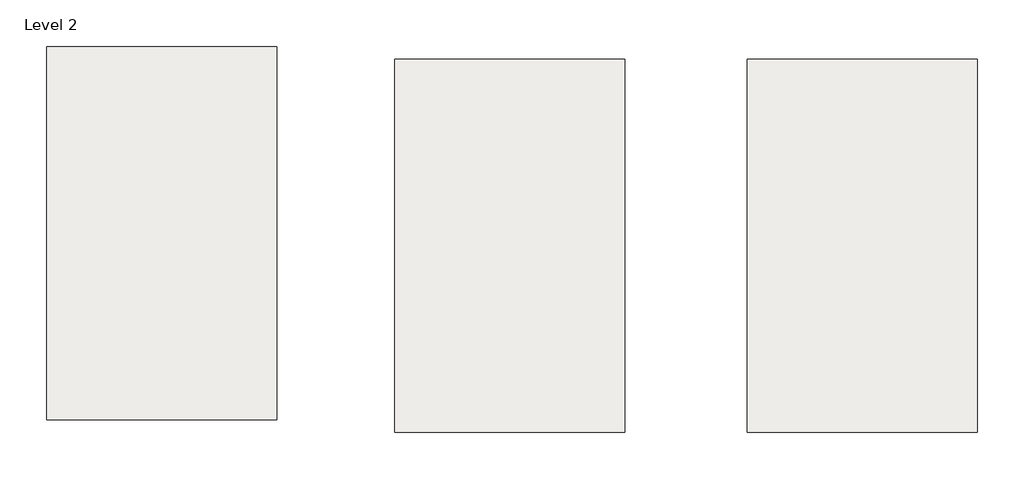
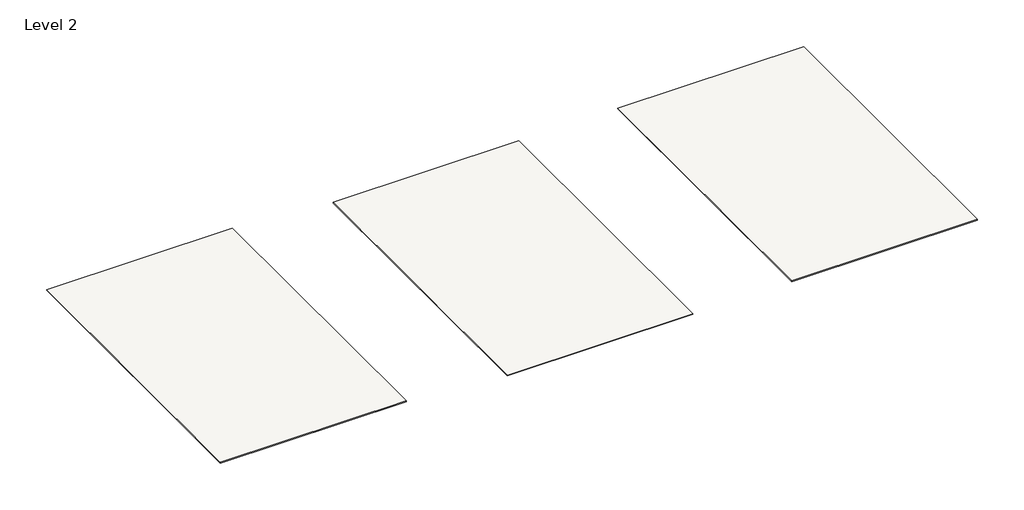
# One storey: 3 roofs.
"""IFC4 building model written with IfcOpenShell, lengths in millimetres."""

from ifc_helpers import new_model, si_unit, frame, origin, place, context, project, spatial, polyline, outline, extrude, element, save

model = new_model("IFC4")

# Units and contexts
model_context = context("Model", 3, world=origin())
ifc_project = project(units=[si_unit("LENGTHUNIT", "METRE", prefix="MILLI")], contexts=[model_context])

# Site, building, storey
site = spatial("IfcSite", under=ifc_project)
building = spatial("IfcBuilding", under=site)
storey = spatial("IfcBuildingStorey", under=building, Name="Level 2", Elevation=3048.0)

# Roofs
placement = place(None, origin())
element("IfcRoof", 1, ObjectType="Metal_Panel-MBCI-SSR-LokSeam_Series-18", at=placement, inside=storey, context=model_context, shape_type="SweptSolid", body=[
    extrude(outline(polyline([(-17285.3789569, -10483.6712849), (-17285.3789569, 4349.9287151), (-8141.3789569, 4349.9287151), (-8141.3789569, -10483.6712849), (-17285.3789569, -10483.6712849)])), frame((0.0, 0.0, 3035.3), z_axis=(0.0, 0.0, 1.0), x_axis=(1.0, 0.0, 0.0)), (0.0, 0.0, 1.0), 44.45),
])
element("IfcRoof", 2, ObjectType="Metal_Panel-MBCI-SSR-LokSeam_Series-16", at=placement, inside=storey, context=model_context, shape_type="SweptSolid", body=[
    extrude(outline(polyline([(-3458.6824933, -10979.6306511), (-3458.6824933, 3853.9693489), (5685.3175067, 3853.9693489), (5685.3175067, -10979.6306511), (-3458.6824933, -10979.6306511)])), frame((0.0, 0.0, 3035.3), z_axis=(0.0, 0.0, 1.0), x_axis=(1.0, 0.0, 0.0)), (0.0, 0.0, 1.0), 44.45),
])
element("IfcRoof", 3, ObjectType="Metal_Panel-MBCI-SSR-LokSeam_Series-12", at=placement, inside=storey, context=model_context, shape_type="SweptSolid", body=[
    extrude(outline(polyline([(10562.1175067, -10979.6306511), (10562.1175067, 3853.9693489), (19706.1175067, 3853.9693489), (19706.1175067, -10979.6306511), (10562.1175067, -10979.6306511)])), frame((0.0, 0.0, 3035.3), z_axis=(0.0, 0.0, 1.0), x_axis=(1.0, 0.0, 0.0)), (0.0, 0.0, 1.0), 44.45),
])

save(model, "model.ifc")
